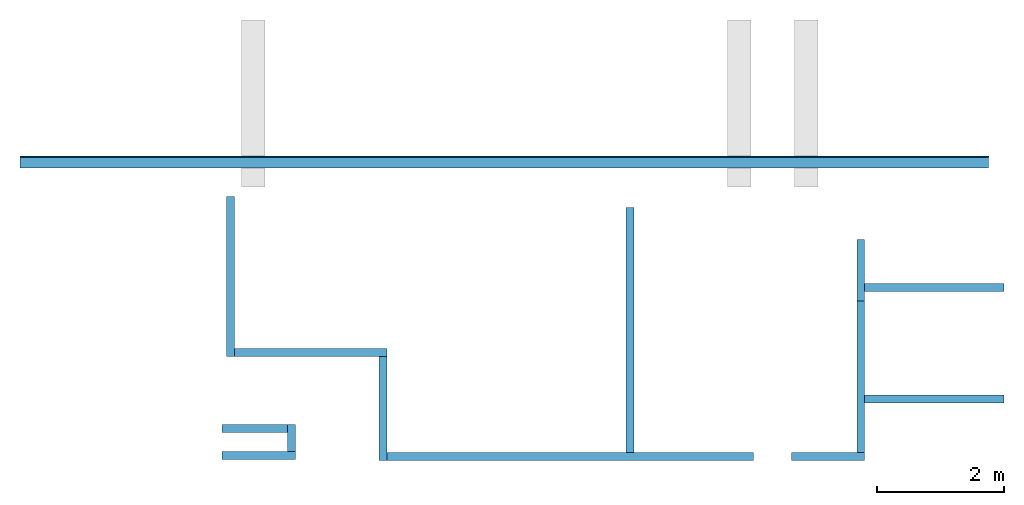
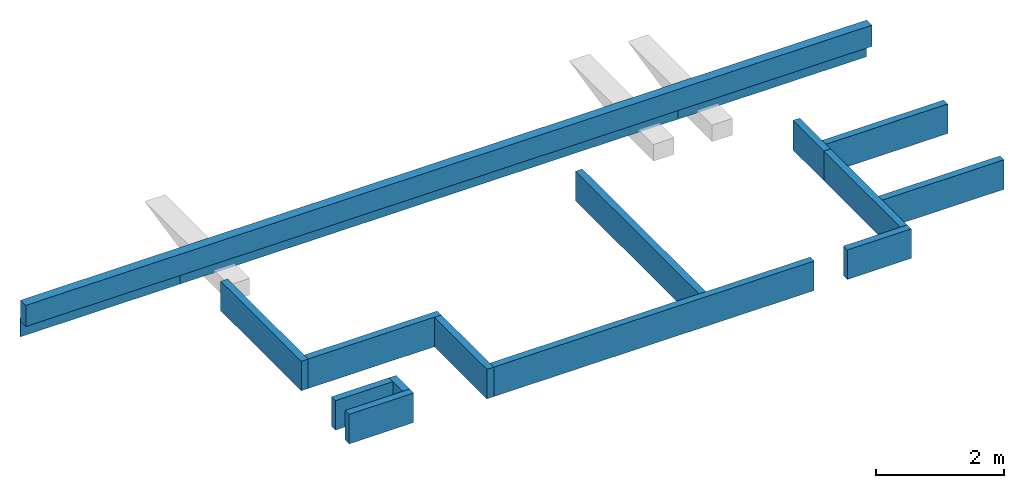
# One storey, part 1 of 2: 17 walls.
"""IFC2X3 building model written with IfcOpenShell, lengths in millimetres."""

from ifc_helpers import new_model, entity, si_unit, converted_unit, derived_unit, direction, frame, frame_2d, origin, origin_with_axes, place, context, subcontext, project, spatial, rectangle, extrude, faceted_brep, material, layer, layer_set, layer_usage, type_object, element, save


model = new_model("IFC2X3")

# Units and contexts
model_context = context("Model", 3, precision=0.01, world=frame((0.0, 4.29681676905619e-09, 0.0)), true_north=direction((4.01073788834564e-13, 1.0)))
plan_context = context("Plan", 3, precision=0.01, world=frame((0.0, 4.29681676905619e-09, 0.0)), true_north=direction((4.01073788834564e-13, 1.0)))
body_context = subcontext(model_context, "Body", "Model", "MODEL_VIEW")
ifc_project = project(units=[converted_unit("PLANEANGLEUNIT", "DEGREE", entity("IfcPositiveLengthMeasure", 0.0174532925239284), si_unit("PLANEANGLEUNIT", "RADIAN"), dimensions=[0, 0, 0, 0, 0, 0, 0]), si_unit("AREAUNIT", "SQUARE_METRE"), si_unit("LENGTHUNIT", "METRE", prefix="MILLI"), si_unit("MASSUNIT", "GRAM", prefix="KILO"), si_unit("POWERUNIT", "WATT"), si_unit("PRESSUREUNIT", "PASCAL"), si_unit("FORCEUNIT", "NEWTON", prefix="KILO"), si_unit("ELECTRICVOLTAGEUNIT", "VOLT"), si_unit("ELECTRICCURRENTUNIT", "AMPERE"), si_unit("THERMODYNAMICTEMPERATUREUNIT", "DEGREE_CELSIUS"), si_unit("TIMEUNIT", "SECOND"), si_unit("VOLUMEUNIT", "CUBIC_METRE"), derived_unit("LINEARVELOCITYUNIT", [(si_unit("LENGTHUNIT", "METRE"), 1), (si_unit("TIMEUNIT", "SECOND"), -1)]), derived_unit("VOLUMETRICFLOWRATEUNIT", [(si_unit("VOLUMEUNIT", "CUBIC_METRE"), 1), (si_unit("TIMEUNIT", "SECOND"), -1)]), derived_unit("THERMALTRANSMITTANCEUNIT", [(si_unit("POWERUNIT", "WATT"), 1), (si_unit("THERMODYNAMICTEMPERATUREUNIT", "KELVIN"), -1), (si_unit("AREAUNIT", "SQUARE_METRE"), -1)]), derived_unit("SOUNDPRESSUREUNIT", [(si_unit("PRESSUREUNIT", "PASCAL"), 1)])], contexts=[model_context, plan_context])

# Site, building, storey
site_placement = place(None, origin_with_axes())
site = spatial("IfcSite", under=ifc_project, at=site_placement, Name="ENGM", CompositionType="ELEMENT")
building_placement = place(site_placement, origin_with_axes())
building = spatial("IfcBuilding", under=site, at=building_placement, Name="TH", CompositionType="ELEMENT")
storey_placement = place(building_placement, frame((0.0, 0.0, 207370.000000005), z_axis=(0.0, 0.0, 1.0), x_axis=(1.0, 0.0, 0.0)))
storey = spatial("IfcBuildingStorey", under=building, at=storey_placement, Name="Nivå E", CompositionType="ELEMENT", Elevation=207370.000000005)

# Walls
ifc_material_1 = material(Name="Plate - Gips")
ifc_layer_1 = layer(ifc_material_1, 12.5)
ifc_material_2 = material(Name="_NSW Stålstender, uisolert")
ifc_layer_2 = layer(ifc_material_2, 100.0)
ifc_layer_3 = layer(ifc_material_1, 12.5)
ifc_layer_set_1 = layer_set([ifc_layer_1, ifc_layer_2, ifc_layer_3], Name="Basic Wall:A241 - RVR-100 (100/100 c/c400 r-r)")
wall_type_1 = type_object("IfcWallType", Name="Basic Wall:A241 - RVR-100 (100/100 c/c400 r-r)", PredefinedType="STANDARD", material=ifc_layer_set_1)
wall_1_placement = place(storey_placement, frame((908454.500000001, 482937.499999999, 0.0), z_axis=(0.0, 0.0, 1.0), x_axis=(1.0, 0.0, 0.0)))
element("IfcWall", 1, at=wall_1_placement, inside=storey, type_object=wall_type_1, Name="Basic Wall:A241 - RVR-100 (100/100 c/c400 r-r)", ObjectType="Basic Wall:A241 - RVR-100 (100/100 c/c400 r-r)", context=body_context, shape_type="Brep", body=[
    faceted_brep([(2199.99999999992, 62.5000000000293, 1829.99999999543), (2199.99999999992, -62.4999999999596, 1829.99999999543), (2199.99999999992, -62.4999999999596, 2394.99999999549), (2199.99999999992, 62.5000000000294, 2394.99999999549), (0.0, 62.5000000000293, 1829.99999999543), (0.0, 62.5000000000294, 2394.99999999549), (0.0, -62.4999999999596, 1829.99999999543), (0.0, -62.4999999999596, 2394.99999999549)], [[[0, 1, 2, 3]], [[4, 0, 3, 5]], [[6, 4, 5, 7]], [[1, 6, 7, 2]], [[3, 2, 7, 5]], [[4, 6, 1, 0]]], orient=[[False], [False], [False], [False], [False], [False]]),
])
wall_2_placement = place(storey_placement, frame((908454.500000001, 481176.999999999, 0.0), z_axis=(0.0, 0.0, 1.0), x_axis=(1.0, 0.0, 0.0)))
element("IfcWall", 2, at=wall_2_placement, inside=storey, type_object=wall_type_1, Name="Basic Wall:A241 - RVR-100 (100/100 c/c400 r-r)", ObjectType="Basic Wall:A241 - RVR-100 (100/100 c/c400 r-r)", context=body_context, shape_type="Brep", body=[
    faceted_brep([(0.0, -62.4999999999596, 1829.99999999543), (0.0, 62.5000000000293, 1829.99999999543), (0.0, 62.5000000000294, 2394.99999999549), (0.0, -62.4999999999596, 2394.99999999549), (2199.99999999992, -62.4999999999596, 1829.99999999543), (2199.99999999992, -62.4999999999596, 2394.99999999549), (2199.99999999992, 62.5000000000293, 1829.99999999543), (2199.99999999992, 62.5000000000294, 2394.99999999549)], [[[0, 1, 2, 3]], [[4, 0, 3, 5]], [[6, 4, 5, 7]], [[1, 6, 7, 2]], [[3, 2, 7, 5]], [[4, 6, 1, 0]]], orient=[[False], [False], [False], [False], [False], [False]]),
])
ifc_layer_4 = layer(ifc_material_1, 12.5)
ifc_layer_5 = layer(ifc_material_2, 100.0)
ifc_layer_6 = layer(ifc_material_1, 12.5)
ifc_layer_set_2 = layer_set([ifc_layer_4, ifc_layer_5, ifc_layer_6], Name="Basic Wall:A241 - SVS-100 (100/100 g-g)")
wall_type_2 = type_object("IfcWallType", Name="Basic Wall:A241 - SVS-100 (100/100 g-g)", PredefinedType="STANDARD", material=ifc_layer_set_2)
wall_3_placement = place(storey_placement, frame((898437.0, 484374.999999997, 0.0), z_axis=(0.0, 0.0, 1.0), x_axis=(0.0, -1.0, 0.0)))
element("IfcWall", 3, at=wall_3_placement, inside=storey, type_object=wall_type_2, Name="Basic Wall:A241 - SVS-100 (100/100 g-g)", ObjectType="Basic Wall:A241 - SVS-100 (100/100 g-g)", context=body_context, shape_type="Brep", body=[
    faceted_brep([(2522.14999999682, 62.5000000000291, 1829.99999999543), (2522.14999999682, -62.5000000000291, 1829.99999999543), (2522.14999999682, -62.5000000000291, 2394.99999999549), (2522.14999999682, 62.5000000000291, 2394.99999999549), (0.0, 62.5000000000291, 1829.99999999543), (0.0, 62.5000000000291, 2394.99999999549), (0.0, -62.5000000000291, 1829.99999999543), (0.0, -62.5000000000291, 2394.99999999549)], [[[0, 1, 2, 3]], [[4, 0, 3, 5]], [[6, 4, 5, 7]], [[1, 6, 7, 2]], [[3, 2, 7, 5]], [[4, 6, 1, 0]]], orient=[[False], [False], [False], [False], [False], [False]]),
])
wall_4_placement = place(storey_placement, frame((904750.0, 484200.0, 0.0), z_axis=(0.0, 0.0, 1.0), x_axis=(0.0, -1.0, 0.0)))
element("IfcWall", 4, at=wall_4_placement, inside=storey, type_object=wall_type_2, Name="Basic Wall:A241 - SVS-100 (100/100 g-g)", ObjectType="Basic Wall:A241 - SVS-100 (100/100 g-g)", context=body_context, shape_type="Brep", body=[
    faceted_brep([(3866.50000000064, -62.5000000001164, 1829.99999999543), (0.0, -62.5000000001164, 1829.99999999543), (0.0, -62.5000000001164, 2394.99999999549), (3866.50000000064, -62.5000000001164, 2394.99999999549), (0.0, 62.5, 1829.99999999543), (3866.50000000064, 62.5, 1829.99999999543), (3866.50000000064, 62.5, 2394.99999999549), (0.0, 62.5, 2394.99999999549)], [[[0, 1, 2, 3]], [[4, 5, 6, 7]], [[5, 0, 3, 6]], [[1, 4, 7, 2]], [[7, 6, 3, 2]], [[5, 4, 1, 0]]], orient=[[False], [False], [False], [False], [False], [False]]),
])
wall_5_placement = place(storey_placement, frame((908392.0, 482729.999999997, 84.9999999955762), z_axis=(0.0, 0.0, 1.0), x_axis=(0.0, 1.0, 0.0)))
element("IfcWall", 5, at=wall_5_placement, inside=storey, type_object=wall_type_2, Name="Basic Wall:A241 - SVS-100 (100/100 g-g)", ObjectType="Basic Wall:A241 - SVS-100 (100/100 g-g)", context=body_context, shape_type="Brep", body=[
    faceted_brep([(970.0, -62.5, 1744.99999999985), (0.0, -62.5, 1744.99999999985), (0.0, -62.5, 2310.0), (970.0, -62.5, 2310.0), (0.0, 62.5, 1744.99999999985), (970.0, 62.5, 1744.99999999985), (970.0, 62.5, 2310.0), (0.0, 62.5, 2310.0)], [[[0, 1, 2, 3]], [[4, 5, 6, 7]], [[7, 6, 3, 2]], [[1, 4, 7, 2]], [[5, 0, 3, 6]], [[5, 4, 1, 0]]], orient=[[False], [False], [False], [False], [False], [False]]),
])
wall_6_placement = place(storey_placement, frame((898499.500000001, 481915.35, 0.0), z_axis=(0.0, 0.0, 1.0), x_axis=(1.0, 0.0, 0.0)))
element("IfcWall", 6, at=wall_6_placement, inside=storey, type_object=wall_type_2, Name="Basic Wall:A241 - SVS-100 (100/100 g-g)", ObjectType="Basic Wall:A241 - SVS-100 (100/100 g-g)", context=body_context, shape_type="Brep", body=[
    faceted_brep([(2406.99999999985, 62.5000000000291, 1829.99999999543), (2406.99999999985, -62.4999999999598, 1829.99999999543), (2406.99999999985, -62.4999999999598, 2394.99999999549), (2406.99999999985, 62.5000000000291, 2394.99999999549), (0.0, 62.5000000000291, 1829.99999999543), (0.0, 62.5000000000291, 2394.99999999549), (0.0, -62.4999999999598, 1829.99999999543), (0.0, -62.4999999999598, 2394.99999999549)], [[[0, 1, 2, 3]], [[4, 0, 3, 5]], [[6, 4, 5, 7]], [[1, 6, 7, 2]], [[3, 2, 7, 5]], [[4, 6, 1, 0]]], orient=[[False], [False], [False], [False], [False], [False]]),
])
wall_7_placement = place(storey_placement, frame((900844.0, 481852.85, 0.0), z_axis=(0.0, 0.0, 1.0), x_axis=(0.0, -1.0, 0.0)))
element("IfcWall", 7, at=wall_7_placement, inside=storey, type_object=wall_type_2, Name="Basic Wall:A241 - SVS-100 (100/100 g-g)", ObjectType="Basic Wall:A241 - SVS-100 (100/100 g-g)", context=body_context, shape_type="Brep", body=[
    faceted_brep([(1.13686837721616e-13, -62.5000000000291, 1829.99999999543), (1.13686837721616e-13, 62.5000000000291, 1829.99999999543), (1.13686837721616e-13, 62.5000000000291, 2394.99999999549), (1.13686837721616e-13, -62.5000000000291, 2394.99999999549), (1644.35000000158, -62.5000000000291, 1829.99999999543), (1644.35000000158, -62.5000000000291, 2394.99999999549), (1644.35000000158, 62.5000000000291, 1829.99999999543), (1644.35000000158, 62.5000000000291, 2394.99999999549)], [[[0, 1, 2, 3]], [[4, 0, 3, 5]], [[6, 4, 5, 7]], [[1, 6, 7, 2]], [[3, 2, 7, 5]], [[4, 6, 1, 0]]], orient=[[False], [False], [False], [False], [False], [False]]),
])
wall_8_placement = place(storey_placement, frame((898300.0, 480284.999999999, 0.0), z_axis=(0.0, 0.0, 1.0), x_axis=(1.0, 0.0, 0.0)))
element("IfcWall", 8, at=wall_8_placement, inside=storey, type_object=wall_type_2, Name="Basic Wall:A241 - SVS-100 (100/100 g-g)", ObjectType="Basic Wall:A241 - SVS-100 (100/100 g-g)", context=body_context, shape_type="Brep", body=[
    faceted_brep([(1166.00000000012, 62.5000000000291, 1829.99999999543), (1166.00000000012, -62.4999999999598, 1829.99999999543), (1166.00000000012, -62.4999999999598, 2394.99999999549), (1166.00000000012, 62.5000000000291, 2394.99999999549), (0.0, 62.5000000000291, 1829.99999999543), (0.0, 62.5000000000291, 2394.99999999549), (0.0, -62.4999999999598, 1829.99999999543), (0.0, -62.4999999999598, 2394.99999999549)], [[[0, 1, 2, 3]], [[4, 0, 3, 5]], [[6, 4, 5, 7]], [[1, 6, 7, 2]], [[3, 2, 7, 5]], [[4, 6, 1, 0]]], orient=[[False], [False], [False], [False], [False], [False]]),
])
wall_9_placement = place(storey_placement, frame((899403.500000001, 480347.499999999, 0.0), z_axis=(0.0, 0.0, 1.0), x_axis=(0.0, 1.0, 0.0)))
element("IfcWall", 9, at=wall_9_placement, inside=storey, type_object=wall_type_2, Name="Basic Wall:A241 - SVS-100 (100/100 g-g)", ObjectType="Basic Wall:A241 - SVS-100 (100/100 g-g)", context=body_context, shape_type="Brep", body=[
    faceted_brep([(430.499999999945, 62.5000000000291, 1829.99999999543), (430.499999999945, -62.5000000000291, 1829.99999999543), (430.499999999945, -62.5000000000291, 2394.99999999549), (430.499999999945, 62.5000000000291, 2394.99999999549), (0.0, 62.5000000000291, 1829.99999999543), (0.0, 62.5000000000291, 2394.99999999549), (0.0, -62.5000000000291, 1829.99999999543), (0.0, -62.5000000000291, 2394.99999999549)], [[[0, 1, 2, 3]], [[4, 0, 3, 5]], [[6, 4, 5, 7]], [[1, 6, 7, 2]], [[3, 2, 7, 5]], [[4, 6, 1, 0]]], orient=[[False], [False], [False], [False], [False], [False]]),
])
wall_10_placement = place(storey_placement, frame((898300.0, 480715.499999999, 0.0), z_axis=(0.0, 0.0, 1.0), x_axis=(1.0, 0.0, 0.0)))
element("IfcWall", 10, at=wall_10_placement, inside=storey, type_object=wall_type_2, Name="Basic Wall:A241 - SVS-100 (100/100 g-g)", ObjectType="Basic Wall:A241 - SVS-100 (100/100 g-g)", context=body_context, shape_type="Brep", body=[
    faceted_brep([(1041.0, -62.4999999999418, 1829.99999999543), (0.0, -62.4999999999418, 1829.99999999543), (0.0, -62.4999999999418, 2394.99999999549), (1041.0, -62.4999999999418, 2394.99999999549), (0.0, 62.5000000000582, 1829.99999999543), (1041.0, 62.5000000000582, 1829.99999999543), (1041.0, 62.5000000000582, 2394.99999999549), (0.0, 62.5000000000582, 2394.99999999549)], [[[0, 1, 2, 3]], [[4, 5, 6, 7]], [[7, 6, 3, 2]], [[1, 4, 7, 2]], [[5, 0, 3, 6]], [[5, 4, 1, 0]]], orient=[[False], [False], [False], [False], [False], [False]]),
])
wall_11_placement = place(storey_placement, frame((900906.500000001, 480270.999999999, 0.0), z_axis=(0.0, 0.0, 1.0), x_axis=(1.0, 0.0, 0.0)))
element("IfcWall", 11, at=wall_11_placement, inside=storey, type_object=wall_type_2, Name="Basic Wall:A241 - SVS-100 (100/100 g-g)", ObjectType="Basic Wall:A241 - SVS-100 (100/100 g-g)", context=body_context, shape_type="Brep", body=[
    faceted_brep([(5793.50000000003, 62.5000000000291, 1829.99999999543), (5793.50000000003, -62.4999999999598, 1829.99999999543), (5793.50000000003, -62.4999999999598, 2394.99999999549), (5793.50000000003, 62.5000000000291, 2394.99999999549), (0.0, 62.5000000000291, 1829.99999999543), (0.0, 62.5000000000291, 2394.99999999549), (0.0, -62.4999999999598, 1829.99999999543), (0.0, -62.4999999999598, 2394.99999999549)], [[[0, 1, 2, 3]], [[4, 0, 3, 5]], [[6, 4, 5, 7]], [[1, 6, 7, 2]], [[3, 2, 7, 5]], [[4, 6, 1, 0]]], orient=[[False], [False], [False], [False], [False], [False]]),
])
wall_12_placement = place(storey_placement, frame((908392.0, 480333.499999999, 0.0), z_axis=(0.0, 0.0, 1.0), x_axis=(0.0, 1.0, 0.0)))
element("IfcWall", 12, at=wall_12_placement, inside=storey, type_object=wall_type_2, Name="Basic Wall:A241 - SVS-100 (100/100 g-g)", ObjectType="Basic Wall:A241 - SVS-100 (100/100 g-g)", context=body_context, shape_type="Brep", body=[
    faceted_brep([(2396.49999999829, -62.5000000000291, 1829.99999999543), (2.27373675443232e-13, -62.5000000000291, 1829.99999999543), (2.27373675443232e-13, -62.5000000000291, 2394.99999999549), (2396.49999999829, -62.5000000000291, 2394.99999999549), (2396.49999999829, 62.5000000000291, 1829.99999999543), (2396.49999999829, 62.5000000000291, 2394.99999999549), (2.27373675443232e-13, 62.5000000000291, 1829.99999999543), (2.27373675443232e-13, 62.5000000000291, 2394.99999999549)], [[[0, 1, 2, 3]], [[4, 0, 3, 5]], [[6, 4, 5, 7]], [[1, 6, 7, 2]], [[3, 2, 7, 5]], [[4, 6, 1, 0]]], orient=[[False], [False], [False], [False], [False], [False]]),
])
wall_13_placement = place(storey_placement, frame((907300.0, 480270.999999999, 0.0), z_axis=(0.0, 0.0, 1.0), x_axis=(1.0, 0.0, 0.0)))
element("IfcWall", 13, at=wall_13_placement, inside=storey, type_object=wall_type_2, Name="Basic Wall:A241 - SVS-100 (100/100 g-g)", ObjectType="Basic Wall:A241 - SVS-100 (100/100 g-g)", context=body_context, shape_type="Brep", body=[
    faceted_brep([(1154.50000000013, 62.5000000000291, 1829.99999999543), (1154.50000000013, -62.4999999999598, 1829.99999999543), (1154.50000000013, -62.4999999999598, 2394.99999999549), (1154.50000000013, 62.5000000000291, 2394.99999999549), (1.13686837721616e-13, 62.5000000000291, 1829.99999999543), (1.13686837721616e-13, 62.5000000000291, 2394.99999999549), (1.13686837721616e-13, -62.4999999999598, 1829.99999999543), (1.13686837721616e-13, -62.4999999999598, 2394.99999999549)], [[[0, 1, 2, 3]], [[4, 0, 3, 5]], [[6, 4, 5, 7]], [[1, 6, 7, 2]], [[3, 2, 7, 5]], [[4, 6, 1, 0]]], orient=[[False], [False], [False], [False], [False], [False]]),
])
ifc_material_3 = material(Name="_NSW Isolasjon")
ifc_layer_7 = layer(ifc_material_3, 165.0)
ifc_layer_set_3 = layer_set([ifc_layer_7], Name="Basic Wall:A231 - Yttervegg - Isolasjonsjikt 165mm")
wall_type_3 = type_object("IfcWallType", Name="Basic Wall:A231 - Yttervegg - Isolasjonsjikt 165mm", PredefinedType="STANDARD", material=ifc_layer_set_3)
wall_14_placement = place(storey_placement, frame((885975.050000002, 484912.262499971, 2394.9999999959), z_axis=(0.0, 0.0, 1.0), x_axis=(1.0, 0.0, 0.0)))
element("IfcWall", 14, at=wall_14_placement, inside=storey, type_object=wall_type_3, Name="Basic Wall:A231 - Yttervegg - Isolasjonsjikt 165mm", ObjectType="Basic Wall:A231 - Yttervegg - Isolasjonsjikt 165mm", context=body_context, shape_type="Brep", body=[
    faceted_brep([(24435.5348417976, 82.5000000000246, 0.0), (24435.5348417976, 82.5000000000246, 404.999999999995), (9136.8561685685, 82.5000000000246, 404.999999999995), (9136.8561685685, 82.5000000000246, 0.0), (9136.8561685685, -82.4999999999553, 0.0), (9136.8561685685, -82.4999999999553, 404.999999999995), (24435.5348417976, -82.4999999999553, 404.999999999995), (24435.5348417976, -82.4999999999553, 0.0)], [[[0, 1, 2, 3]], [[4, 5, 6, 7]], [[7, 0, 3, 4]], [[1, 6, 5, 2]], [[7, 6, 1, 0]], [[5, 4, 3, 2]]], orient=[[False], [False], [False], [False], [False], [False]]),
])
ifc_material_4 = material(Name="T2_Metal_Aluminium")
ifc_layer_8 = layer(ifc_material_4, 1.0)
ifc_material_5 = material(Name="T2_X-finer")
ifc_layer_9 = layer(ifc_material_5, 15.0)
ifc_layer_set_4 = layer_set([ifc_layer_8, ifc_layer_9], Name="Basic Wall:A231 - X-finer med beslag")
ifc_layer_usage = layer_usage(ifc_layer_set_4, "AXIS2", "POSITIVE", -8.0)
wall_type_4 = type_object("IfcWallType", Name="Basic Wall:A231 - X-finer med beslag", PredefinedType="STANDARD", material=ifc_layer_set_4)
wall_15_placement = place(storey_placement, frame((906999.999999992, 485002.762499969, 2097.99999999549), z_axis=(0.0, 0.0, 1.0), x_axis=(-1.0, 0.0, 0.0)))
element("IfcWallStandardCase", 15, at=wall_15_placement, inside=storey, type_object=wall_type_4, material=ifc_layer_usage, Name="Basic Wall:A231 - X-finer med beslag", ObjectType="Basic Wall:A231 - X-finer med beslag", context=body_context, shape_type="SweptSolid", body=[
    extrude(rectangle(XDim=9000.00000000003, YDim=15.9999999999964, at=frame_2d((4500.00000000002, -2.8199664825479e-12), x_axis=(-1.0, 0.0))), origin(), (0.0, 0.0, 1.0), 354.999999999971),
])
wall_16_placement = place(storey_placement, frame((897999.999999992, 485002.762499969, 2097.99999999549), z_axis=(0.0, 0.0, 1.0), x_axis=(-1.0, 0.0, 0.0)))
element("IfcWall", 16, at=wall_16_placement, inside=storey, type_object=wall_type_4, Name="Basic Wall:A231 - X-finer med beslag", ObjectType="Basic Wall:A231 - X-finer med beslag", context=body_context, shape_type="Brep", body=[
    faceted_brep([(2888.09383142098, 7.99999999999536, 0.0), (2888.09383142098, 7.99999999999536, 354.999999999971), (0.0, 7.99999999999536, 354.999999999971), (0.0, 7.99999999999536, 0.0), (0.0, -8.000000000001, 354.999999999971), (0.0, -8.000000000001, 0.0), (2888.09383142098, -8.000000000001, 354.999999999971), (2888.09383142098, -8.000000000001, 0.0)], [[[0, 1, 2, 3]], [[3, 2, 4, 5]], [[6, 7, 5, 4]], [[7, 0, 3, 5]], [[1, 6, 4, 2]], [[7, 6, 1, 0]]], orient=[[False], [False], [False], [False], [False], [False]]),
])
wall_17_placement = place(storey_placement, frame((915999.999999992, 485002.762499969, 2097.99999999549), z_axis=(0.0, 0.0, 1.0), x_axis=(-1.0, 0.0, 0.0)))
element("IfcWall", 17, at=wall_17_placement, inside=storey, type_object=wall_type_4, Name="Basic Wall:A231 - X-finer med beslag", ObjectType="Basic Wall:A231 - X-finer med beslag", context=body_context, shape_type="Brep", body=[
    faceted_brep([(9000.00000000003, -8.000000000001, 0.0), (9000.00000000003, -8.000000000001, 354.999999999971), (9000.00000000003, 7.99999999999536, 354.999999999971), (9000.00000000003, 7.99999999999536, 0.0), (5589.41515819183, 7.99999999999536, 354.999999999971), (5589.41515819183, 7.99999999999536, 0.0), (5589.41515819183, -8.000000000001, 0.0), (5589.41515819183, -8.000000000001, 354.999999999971)], [[[0, 1, 2, 3]], [[4, 5, 3, 2]], [[6, 7, 1, 0]], [[5, 6, 0, 3]], [[7, 4, 2, 1]], [[7, 6, 5, 4]]], orient=[[False], [False], [False], [False], [False], [False]]),
])

save(model, "model.ifc")
